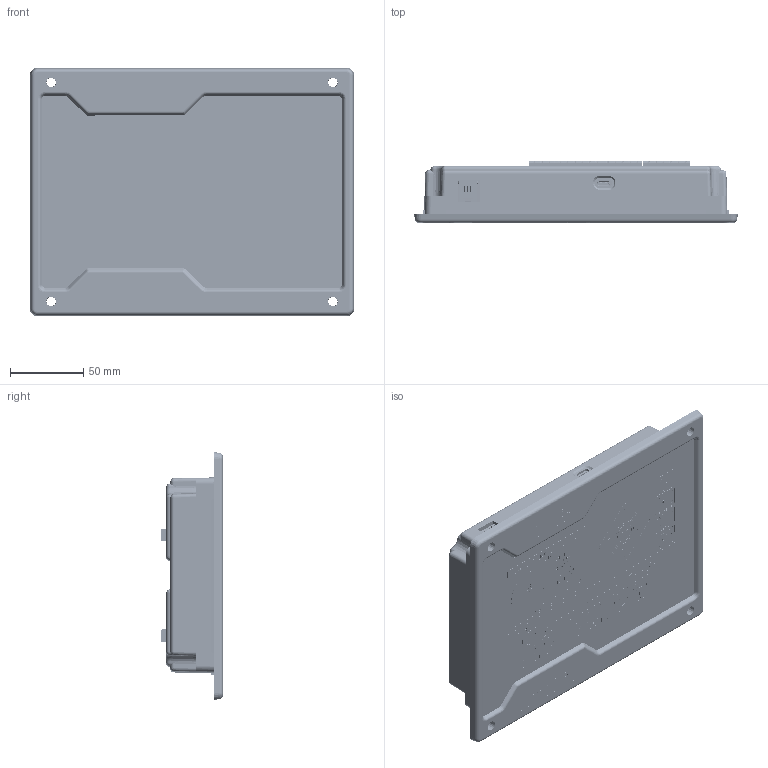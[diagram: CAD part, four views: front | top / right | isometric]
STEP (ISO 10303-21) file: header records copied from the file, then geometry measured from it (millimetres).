
FILE_DESCRIPTION(/* description */ ('CAx-IF Rec.Pracs.---Representation and Presentation of Product Manufacturing Information (PMI)---4.0---2014-10-13','CAx-IF Rec.Pracs.---3D Tessellated Geometry---0.4---2014-09-14','2;1'),/* implementation_level */ '2;1');
FILE_NAME(/* name */ 'K30XL',/* time_stamp */ '2026-02-25T08:38:42-03:00',/* author */ ('Rodrigo Xavier'),/* organization */ ('KVA'),/* preprocessor_version */ 'ST-DEVELOPER v20',/* originating_system */ 'Solid Edge',/* authorisation */ 'Unknown');
FILE_SCHEMA (('AP242_MANAGED_MODEL_BASED_3D_ENGINEERING_MIM_LF { 1 0 10303 442 1 1 4 }'));
Products named in the file (29): XL; Gabinete_Frontal_XLL; AdesivoFrontalK30XL; EtiquetaKVAXL; EtiquetaXL; Gabinete_Traseiro_XL; K30XL410-BORNES; Board; B3; V02; COM1; RJ11-WE-HOR-TAB-UP; B1; B4; V06; mstbva_2.5-6-g-5.08; B2; V05; mstbva_2.5-5-g-5.08; B9; V03; mstbva_2.5-3-g-5.08; B7; B6; B5; USB; usb-c-2171790001; Open CASCADE STEP translator 6.8 1.11.1.1; Open CASCADE STEP translator 6.8 1.11.1.2
Assembly tree (32 placements, depth 5):
  XL
    Gabinete_Frontal_XLL
    AdesivoFrontalK30XL
    EtiquetaKVAXL
    EtiquetaXL
    Gabinete_Traseiro_XL
    K30XL410-BORNES
      Board
      B3
        V02
      COM1
        RJ11-WE-HOR-TAB-UP
      B1
        V02
      B4
        V06
          mstbva_2.5-6-g-5.08
      B2
        V05
          mstbva_2.5-5-g-5.08
      B9
        V03
          mstbva_2.5-3-g-5.08
      B7
        V06
          mstbva_2.5-6-g-5.08
      B6
        V05
          mstbva_2.5-5-g-5.08
      B5
        V06
          mstbva_2.5-6-g-5.08
      USB
        usb-c-2171790001
          Open CASCADE STEP translator 6.8 1.11.1.1
          Open CASCADE STEP translator 6.8 1.11.1.2
Bounding box: 222 x 42.01 x 170 mm (x, y, z)
Volume: 262509.5 mm3; surface area: 301903.4 mm2
Topology: 19 solids, 19 shells, 10465 faces, 26763 edges, 17585 vertices
Faces by surface type: plane 7863, cylinder 1113, bspline 1096, cone 209, sphere 160, torus 24
Full cylindrical faces by diameter (mm): 0.404 x5, 0.412 x5, 0.488 x2, 0.57 x2, 0.889 x6, 1.27 x2, 1.293 x1, 1.363 x1, 1.5 x35, 2.184 x2, 2.5 x11, 3.5 x4, 4 x3, 4.923 x1, 5.387 x1, 10.808 x1, 12.53 x6, 12.6 x4, 13.127 x1, 13.305 x6, 13.6 x4, 14.003 x1
Entity records: 379419 total; most frequent: CARTESIAN_POINT 111254, ORIENTED_EDGE 45598, DIRECTION 38548, EDGE_CURVE 22799, LINE 17946, VECTOR 17946, VERTEX_POINT 15164, EDGE_LOOP 10553
